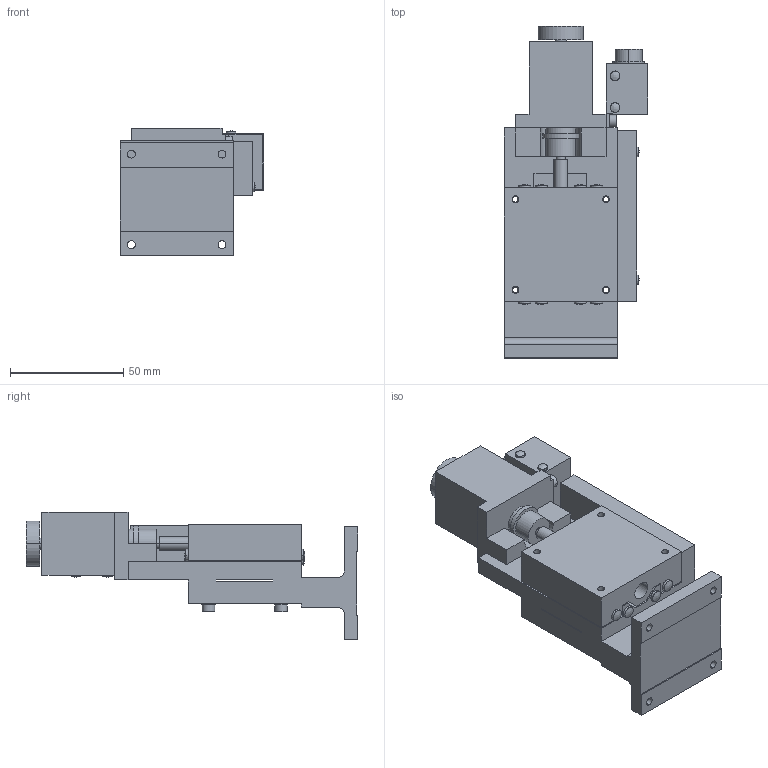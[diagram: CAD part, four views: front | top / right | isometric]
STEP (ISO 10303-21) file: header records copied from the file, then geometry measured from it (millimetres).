
FILE_DESCRIPTION (( 'STEP AP203' ), '1' );
FILE_NAME ('ALZ-5012-G1M-R.STEP', '2010-12-21T05:37:16', ( ' ' ), ( ' ' ), 'SwSTEP 2.0', 'SolidWorks 2010', '' );
FILE_SCHEMA (( 'CONFIG_CONTROL_DESIGN' ));
Length unit declared in the file: millimetre
Products named in the file (3): ALZ-5012-G1M-R-1; ALZ-5012-G1M-R; ALZ-5012-G1M-R-2
Assembly tree (2 placements, depth 2):
  ALZ-5012-G1M-R
    ALZ-5012-G1M-R-1
    ALZ-5012-G1M-R-2
Bounding box: 63.5 x 146.5 x 56.5 mm (x, y, z)
Volume: 176698.1 mm3; surface area: 56297.2 mm2
Topology: 2 solids, 7 shells, 330 faces, 789 edges, 520 vertices
Faces by surface type: plane 161, cylinder 127, cone 28, bspline 14
Entity records: 12748 total; most frequent: CARTESIAN_POINT 4496, DIRECTION 1697, ORIENTED_EDGE 1578, EDGE_CURVE 789, AXIS2_PLACEMENT_3D 617, VERTEX_POINT 520, VECTOR 463, LINE 463
